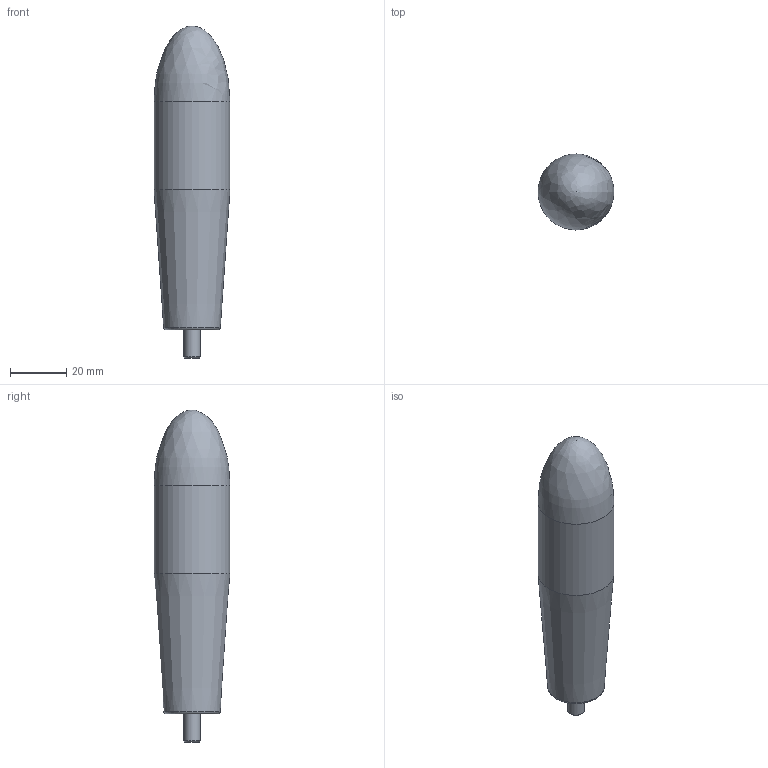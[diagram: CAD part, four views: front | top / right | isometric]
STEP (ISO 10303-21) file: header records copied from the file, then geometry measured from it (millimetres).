
FILE_DESCRIPTION( ('This file contains a STEP AP42 implementation' ,'as created by ZW3D STEP Interface translator.') ,'2;1' );
FILE_NAME( 'R115.stp' ,'26 817.135314', (''), ('ZWCAD Software Co.'), 'Version 1.0', 'ZW3D to STEP translator', '' );
FILE_SCHEMA(('AP242_MANAGED_MODEL_BASED_3D_ENGINEERING_MIM_LF { 1 0 10303 442 1 1 4 }'));
Length unit declared in the file: millimetre
Products named in the file (1): 0
Bounding box: 27 x 27 x 118 mm (x, y, z)
Volume: 50207 mm3; surface area: 10462.1 mm2
Topology: 2 solids, 2 shells, 25 faces, 53 edges, 34 vertices
Faces by surface type: plane 18, cylinder 3, cone 2, bspline 1, torus 1
Full cylindrical faces by diameter (mm): 6 x2, 27 x1
Entity records: 727 total; most frequent: CARTESIAN_POINT 138, DIRECTION 113, ORIENTED_EDGE 104, EDGE_CURVE 52, VECTOR 41, LINE 41, AXIS2_PLACEMENT_3D 36, VERTEX_POINT 34
